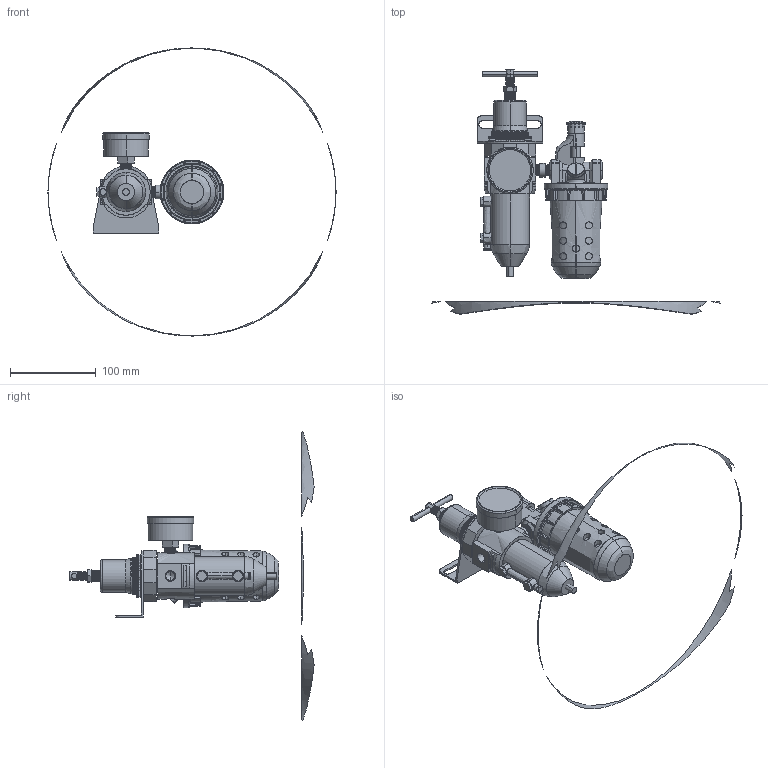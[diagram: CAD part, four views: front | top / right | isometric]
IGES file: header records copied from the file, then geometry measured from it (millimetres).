
Start section: SolidWorks IGES file using analytic representation for surfaces
Global section: file name: D:\Custom\3D繪製\FRL\BL系列\U668-02#YB#.IGS; native system: SolidWorks 2014; preprocessor: SolidWorks 2014; author: Chieh_Lu; date: 160115.011540; units: millimetre
Bounding box: 335.27 x 284.25 x 335.15 mm (x, y, z)
Surface area: 125226.4 mm2 (no closed solid volume)
Topology: 0 solids, 0 shells, 1233 faces, 16654 edges, 16641 vertices
Faces by surface type: bspline 737, revolution 496
